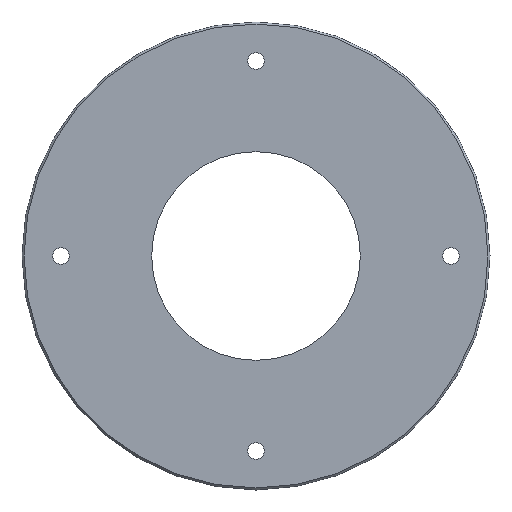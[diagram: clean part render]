
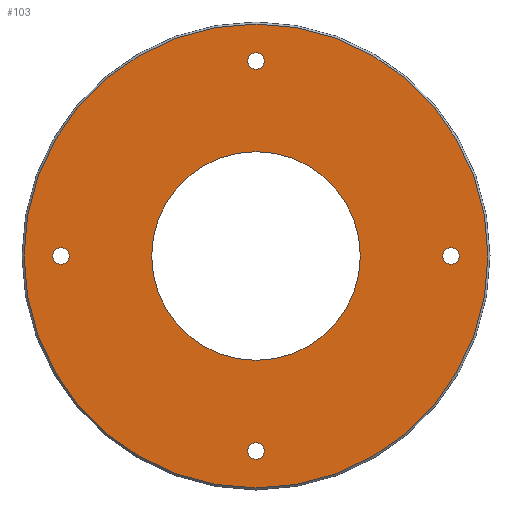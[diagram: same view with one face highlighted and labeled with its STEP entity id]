
A CAD part, left-side view. The second image highlights one B-rep face of the part: STEP entity #103.
In plain terms, the highlighted planar face has unit normal (-1, 0, 0).
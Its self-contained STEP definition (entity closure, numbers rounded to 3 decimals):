
#5 = CIRCLE ( 'NONE', #214, 4. ) ;
#6 = DIRECTION ( 'NONE',  ( 0., 0., 1. ) ) ;
#8 = DIRECTION ( 'NONE',  ( 0., 0., 1. ) ) ;
#10 = ORIENTED_EDGE ( 'NONE', *, *, #329, .T. ) ;
#14 = DIRECTION ( 'NONE',  ( 1., 0., 0. ) ) ;
#17 = AXIS2_PLACEMENT_3D ( 'NONE', #208, #284, #202 ) ;
#28 = CARTESIAN_POINT ( 'NONE',  ( 0., 0., 113.3 ) ) ;
#33 = EDGE_LOOP ( 'NONE', ( #167, #199 ) ) ;
#44 = ORIENTED_EDGE ( 'NONE', *, *, #360, .T. ) ;
#59 = PLANE ( 'NONE',  #138 ) ;
#65 = VERTEX_POINT ( 'NONE', #439 ) ;
#67 = EDGE_LOOP ( 'NONE', ( #602, #10 ) ) ;
#68 = ORIENTED_EDGE ( 'NONE', *, *, #598, .F. ) ;
#69 = AXIS2_PLACEMENT_3D ( 'NONE', #400, #14, #8 ) ;
#75 = AXIS2_PLACEMENT_3D ( 'NONE', #134, #475, #190 ) ;
#76 = DIRECTION ( 'NONE',  ( 0., 0., 1. ) ) ;
#77 = CIRCLE ( 'NONE', #183, 4. ) ;
#78 = CARTESIAN_POINT ( 'NONE',  ( 0., 0., -99.25 ) ) ;
#85 = DIRECTION ( 'NONE',  ( 0., 0., 1. ) ) ;
#89 = EDGE_CURVE ( 'NONE', #364, #309, #451, .T. ) ;
#103 = ADVANCED_FACE ( 'NONE', ( #270, #403, #274, #225, #290, #323 ), #59, .F. ) ;
#105 = EDGE_CURVE ( 'NONE', #396, #389, #375, .T. ) ;
#114 = EDGE_CURVE ( 'NONE', #159, #401, #258, .T. ) ;
#116 = CARTESIAN_POINT ( 'NONE',  ( 0., 0., 0. ) ) ;
#127 = CARTESIAN_POINT ( 'NONE',  ( 0., 0., 91.25 ) ) ;
#134 = CARTESIAN_POINT ( 'NONE',  ( 0., 0., 0. ) ) ;
#137 = AXIS2_PLACEMENT_3D ( 'NONE', #139, #477, #191 ) ;
#138 = AXIS2_PLACEMENT_3D ( 'NONE', #463, #306, #296 ) ;
#139 = CARTESIAN_POINT ( 'NONE',  ( 0., -95.25, 0. ) ) ;
#143 = CARTESIAN_POINT ( 'NONE',  ( 0., 0., -95.25 ) ) ;
#147 = DIRECTION ( 'NONE',  ( 1., 0., 0. ) ) ;
#159 = VERTEX_POINT ( 'NONE', #510 ) ;
#167 = ORIENTED_EDGE ( 'NONE', *, *, #505, .T. ) ;
#170 = CARTESIAN_POINT ( 'NONE',  ( 0., 0., 50.95 ) ) ;
#176 = DIRECTION ( 'NONE',  ( 1., 0., 0. ) ) ;
#178 = ORIENTED_EDGE ( 'NONE', *, *, #89, .F. ) ;
#183 = AXIS2_PLACEMENT_3D ( 'NONE', #295, #176, #85 ) ;
#190 = DIRECTION ( 'NONE',  ( 0., 0., 1. ) ) ;
#191 = DIRECTION ( 'NONE',  ( 0., 0., 1. ) ) ;
#196 = CIRCLE ( 'NONE', #207, 113.3 ) ;
#197 = ORIENTED_EDGE ( 'NONE', *, *, #209, .T. ) ;
#199 = ORIENTED_EDGE ( 'NONE', *, *, #105, .T. ) ;
#202 = DIRECTION ( 'NONE',  ( 0., 0., -1. ) ) ;
#203 = CARTESIAN_POINT ( 'NONE',  ( 0., 0., 0. ) ) ;
#207 = AXIS2_PLACEMENT_3D ( 'NONE', #203, #307, #361 ) ;
#208 = CARTESIAN_POINT ( 'NONE',  ( 0., 0., 0. ) ) ;
#209 = EDGE_CURVE ( 'NONE', #327, #424, #77, .T. ) ;
#214 = AXIS2_PLACEMENT_3D ( 'NONE', #259, #573, #304 ) ;
#225 = FACE_BOUND ( 'NONE', #281, .T. ) ;
#232 = DIRECTION ( 'NONE',  ( 1., 0., 0. ) ) ;
#257 = EDGE_CURVE ( 'NONE', #262, #588, #313, .T. ) ;
#258 = CIRCLE ( 'NONE', #502, 4. ) ;
#259 = CARTESIAN_POINT ( 'NONE',  ( 0., 95.25, 0. ) ) ;
#262 = VERTEX_POINT ( 'NONE', #170 ) ;
#264 = EDGE_LOOP ( 'NONE', ( #555, #418 ) ) ;
#268 = CARTESIAN_POINT ( 'NONE',  ( 0., 0., -50.95 ) ) ;
#270 = FACE_OUTER_BOUND ( 'NONE', #395, .T. ) ;
#274 = FACE_BOUND ( 'NONE', #67, .T. ) ;
#277 = CIRCLE ( 'NONE', #137, 4. ) ;
#278 = CARTESIAN_POINT ( 'NONE',  ( 0., -95.25, -4. ) ) ;
#281 = EDGE_LOOP ( 'NONE', ( #542, #554 ) ) ;
#284 = DIRECTION ( 'NONE',  ( 1., 0., 0. ) ) ;
#290 = FACE_BOUND ( 'NONE', #586, .T. ) ;
#291 = CARTESIAN_POINT ( 'NONE',  ( 0., 95.25, 0. ) ) ;
#295 = CARTESIAN_POINT ( 'NONE',  ( 0., 0., 95.25 ) ) ;
#296 = DIRECTION ( 'NONE',  ( 0., 0., -1. ) ) ;
#304 = DIRECTION ( 'NONE',  ( 0., 0., 1. ) ) ;
#306 = DIRECTION ( 'NONE',  ( 1., 0., 0. ) ) ;
#307 = DIRECTION ( 'NONE',  ( 1., 0., 0. ) ) ;
#309 = VERTEX_POINT ( 'NONE', #28 ) ;
#313 = CIRCLE ( 'NONE', #328, 50.95 ) ;
#316 = CIRCLE ( 'NONE', #69, 4. ) ;
#322 = VERTEX_POINT ( 'NONE', #278 ) ;
#323 = FACE_BOUND ( 'NONE', #33, .T. ) ;
#327 = VERTEX_POINT ( 'NONE', #127 ) ;
#328 = AXIS2_PLACEMENT_3D ( 'NONE', #116, #368, #76 ) ;
#329 = EDGE_CURVE ( 'NONE', #401, #159, #509, .T. ) ;
#338 = DIRECTION ( 'NONE',  ( 1., 0., 0. ) ) ;
#359 = AXIS2_PLACEMENT_3D ( 'NONE', #556, #338, #597 ) ;
#360 = EDGE_CURVE ( 'NONE', #424, #327, #528, .T. ) ;
#361 = DIRECTION ( 'NONE',  ( 0., 0., -1. ) ) ;
#364 = VERTEX_POINT ( 'NONE', #595 ) ;
#368 = DIRECTION ( 'NONE',  ( 1., 0., 0. ) ) ;
#375 = CIRCLE ( 'NONE', #590, 4. ) ;
#389 = VERTEX_POINT ( 'NONE', #607 ) ;
#395 = EDGE_LOOP ( 'NONE', ( #178, #68 ) ) ;
#396 = VERTEX_POINT ( 'NONE', #459 ) ;
#400 = CARTESIAN_POINT ( 'NONE',  ( 0., -95.25, 0. ) ) ;
#401 = VERTEX_POINT ( 'NONE', #78 ) ;
#403 = FACE_BOUND ( 'NONE', #264, .T. ) ;
#414 = CARTESIAN_POINT ( 'NONE',  ( 0., 0., 99.25 ) ) ;
#418 = ORIENTED_EDGE ( 'NONE', *, *, #442, .T. ) ;
#424 = VERTEX_POINT ( 'NONE', #414 ) ;
#439 = CARTESIAN_POINT ( 'NONE',  ( 0., -95.25, 4. ) ) ;
#442 = EDGE_CURVE ( 'NONE', #588, #262, #480, .T. ) ;
#451 = CIRCLE ( 'NONE', #17, 113.3 ) ;
#459 = CARTESIAN_POINT ( 'NONE',  ( 0., 95.25, -4. ) ) ;
#463 = CARTESIAN_POINT ( 'NONE',  ( 0., 113.3, 0. ) ) ;
#468 = EDGE_CURVE ( 'NONE', #322, #65, #277, .T. ) ;
#471 = DIRECTION ( 'NONE',  ( 0., 0., 1. ) ) ;
#475 = DIRECTION ( 'NONE',  ( 1., 0., 0. ) ) ;
#477 = DIRECTION ( 'NONE',  ( 1., 0., 0. ) ) ;
#480 = CIRCLE ( 'NONE', #75, 50.95 ) ;
#493 = AXIS2_PLACEMENT_3D ( 'NONE', #496, #232, #548 ) ;
#496 = CARTESIAN_POINT ( 'NONE',  ( 0., 0., 95.25 ) ) ;
#502 = AXIS2_PLACEMENT_3D ( 'NONE', #143, #516, #6 ) ;
#505 = EDGE_CURVE ( 'NONE', #389, #396, #5, .T. ) ;
#509 = CIRCLE ( 'NONE', #359, 4. ) ;
#510 = CARTESIAN_POINT ( 'NONE',  ( 0., 0., -91.25 ) ) ;
#516 = DIRECTION ( 'NONE',  ( 1., 0., 0. ) ) ;
#528 = CIRCLE ( 'NONE', #493, 4. ) ;
#542 = ORIENTED_EDGE ( 'NONE', *, *, #579, .T. ) ;
#548 = DIRECTION ( 'NONE',  ( 0., 0., 1. ) ) ;
#554 = ORIENTED_EDGE ( 'NONE', *, *, #468, .T. ) ;
#555 = ORIENTED_EDGE ( 'NONE', *, *, #257, .T. ) ;
#556 = CARTESIAN_POINT ( 'NONE',  ( 0., 0., -95.25 ) ) ;
#573 = DIRECTION ( 'NONE',  ( 1., 0., 0. ) ) ;
#579 = EDGE_CURVE ( 'NONE', #65, #322, #316, .T. ) ;
#586 = EDGE_LOOP ( 'NONE', ( #44, #197 ) ) ;
#588 = VERTEX_POINT ( 'NONE', #268 ) ;
#590 = AXIS2_PLACEMENT_3D ( 'NONE', #291, #147, #471 ) ;
#595 = CARTESIAN_POINT ( 'NONE',  ( 0., 0., -113.3 ) ) ;
#597 = DIRECTION ( 'NONE',  ( 0., 0., 1. ) ) ;
#598 = EDGE_CURVE ( 'NONE', #309, #364, #196, .T. ) ;
#602 = ORIENTED_EDGE ( 'NONE', *, *, #114, .T. ) ;
#607 = CARTESIAN_POINT ( 'NONE',  ( 0., 95.25, 4. ) ) ;
